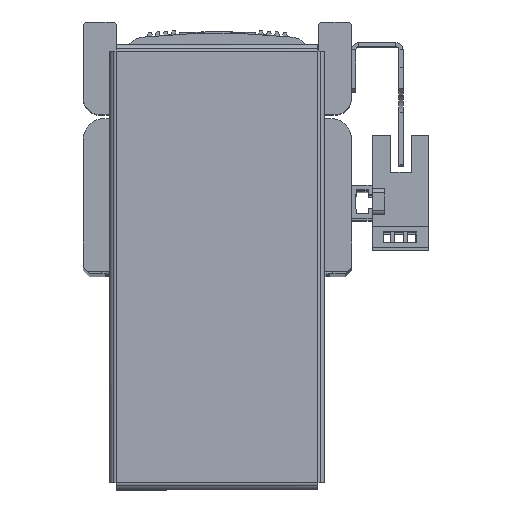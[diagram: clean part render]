
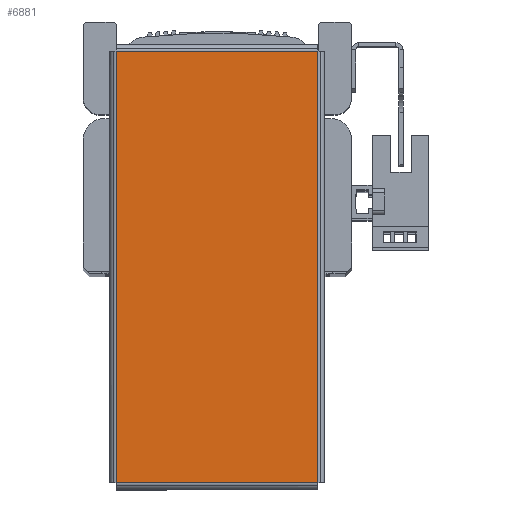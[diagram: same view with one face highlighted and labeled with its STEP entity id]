
A CAD part, top view. The second image highlights one B-rep face of the part: STEP entity #6881.
In plain terms, the highlighted planar face has unit normal (0, 0, 1) as drawn and (0, 0, -1) by its records, which use the part's own axes.
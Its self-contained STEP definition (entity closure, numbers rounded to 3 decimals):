
#3093 = CARTESIAN_POINT ( 'NONE',  ( -52.263, -24.363, -1. ) ) ;
#3118 = CARTESIAN_POINT ( 'NONE',  ( 52.263, -24.363, -1. ) ) ;
#3146 = CARTESIAN_POINT ( 'NONE',  ( -52.263, 24.363, -1. ) ) ;
#3180 = CARTESIAN_POINT ( 'NONE',  ( 52.263, 24.363, -1. ) ) ;
#5573 = EDGE_CURVE ( 'NONE', #31145, #31087, #33011, .T. ) ;
#5614 = EDGE_CURVE ( 'NONE', #31087, #31066, #32989, .T. ) ;
#5651 = EDGE_CURVE ( 'NONE', #31066, #31126, #33077, .T. ) ;
#5664 = EDGE_CURVE ( 'NONE', #31126, #31145, #33108, .T. ) ;
#6881 = ADVANCED_FACE ( 'NONE', ( #14501 ), #15594, .F. ) ;
#8517 = AXIS2_PLACEMENT_3D ( 'NONE', #15610, #15618, #15592 ) ;
#14501 = FACE_OUTER_BOUND ( 'NONE', #31850, .T. ) ;
#15592 = DIRECTION ( 'NONE',  ( 1., 0., 0. ) ) ;
#15594 = PLANE ( 'NONE',  #8517 ) ;
#15610 = CARTESIAN_POINT ( 'NONE',  ( 0., 0., -1. ) ) ;
#15618 = DIRECTION ( 'NONE',  ( 0., 0., 1. ) ) ;
#16558 = DIRECTION ( 'NONE',  ( 0., -1., 0. ) ) ;
#16573 = CARTESIAN_POINT ( 'NONE',  ( 52.263, 24.393, -1. ) ) ;
#16864 = DIRECTION ( 'NONE',  ( -1., 0., 0. ) ) ;
#16934 = CARTESIAN_POINT ( 'NONE',  ( 52.293, -24.363, -1. ) ) ;
#17202 = DIRECTION ( 'NONE',  ( 0., 1., 0. ) ) ;
#17225 = CARTESIAN_POINT ( 'NONE',  ( -52.263, -24.393, -1. ) ) ;
#17311 = DIRECTION ( 'NONE',  ( 1., 0., 0. ) ) ;
#17347 = CARTESIAN_POINT ( 'NONE',  ( -52.293, 24.363, -1. ) ) ;
#23138 = ORIENTED_EDGE ( 'NONE', *, *, #5573, .T. ) ;
#23139 = ORIENTED_EDGE ( 'NONE', *, *, #5614, .T. ) ;
#23144 = ORIENTED_EDGE ( 'NONE', *, *, #5651, .T. ) ;
#23191 = ORIENTED_EDGE ( 'NONE', *, *, #5664, .T. ) ;
#31066 = VERTEX_POINT ( 'NONE', #3093 ) ;
#31087 = VERTEX_POINT ( 'NONE', #3118 ) ;
#31126 = VERTEX_POINT ( 'NONE', #3146 ) ;
#31145 = VERTEX_POINT ( 'NONE', #3180 ) ;
#31850 = EDGE_LOOP ( 'NONE', ( #23138, #23139, #23144, #23191 ) ) ;
#32989 = LINE ( 'NONE', #16934, #33047 ) ;
#32996 = VECTOR ( 'NONE', #16558, 1000. ) ;
#33011 = LINE ( 'NONE', #16573, #32996 ) ;
#33047 = VECTOR ( 'NONE', #16864, 1000. ) ;
#33077 = LINE ( 'NONE', #17225, #33081 ) ;
#33081 = VECTOR ( 'NONE', #17202, 1000. ) ;
#33108 = LINE ( 'NONE', #17347, #33117 ) ;
#33117 = VECTOR ( 'NONE', #17311, 1000. ) ;
